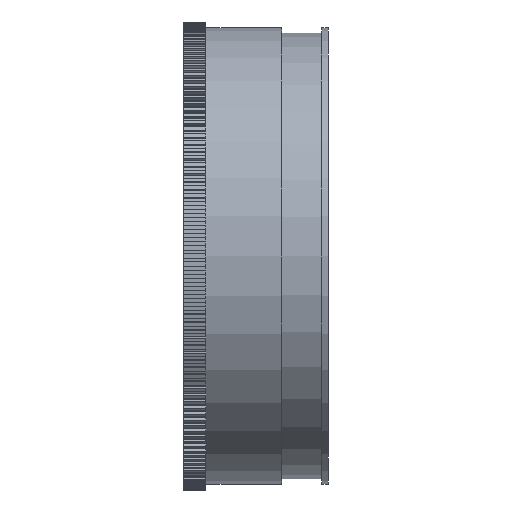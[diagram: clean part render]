
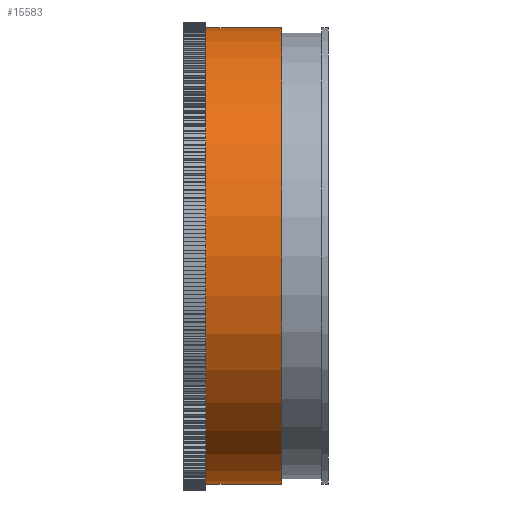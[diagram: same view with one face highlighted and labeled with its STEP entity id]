
A CAD part, front view. The second image highlights one B-rep face of the part: STEP entity #15583.
In plain terms, the highlighted cylindrical face has radius 102.5 mm (diameter 205 mm), a full revolution.
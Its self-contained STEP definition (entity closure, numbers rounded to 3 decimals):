
#100=FACE_BOUND($,#2402,.T.);
#500=CIRCLE($,#16691,102.5);
#558=CIRCLE($,#16796,102.5);
#774=CYLINDRICAL_SURFACE($,#16797,102.5);
#1546=FACE_OUTER_BOUND($,#2401,.T.);
#2401=EDGE_LOOP($,(#14233));
#2402=EDGE_LOOP($,(#14234));
#7486=VERTEX_POINT($,#25390);
#7544=VERTEX_POINT($,#25553);
#9724=EDGE_CURVE($,#7486,#7486,#500,.T.);
#9782=EDGE_CURVE($,#7544,#7544,#558,.T.);
#14233=ORIENTED_EDGE($,*,*,#9782,.F.);
#14234=ORIENTED_EDGE($,*,*,#9724,.T.);
#15583=ADVANCED_FACE($,(#1546,#100),#774,.T.);
#16691=AXIS2_PLACEMENT_3D($,#25391,#20805,#20806);
#16796=AXIS2_PLACEMENT_3D($,#25554,#21015,#21016);
#16797=AXIS2_PLACEMENT_3D($,#25555,#21017,#21018);
#20805=DIRECTION('center_axis',(1.,0.,0.));
#20806=DIRECTION('ref_axis',(0.,1.,0.));
#21015=DIRECTION('center_axis',(1.,0.,0.));
#21016=DIRECTION('ref_axis',(0.,1.,0.));
#21017=DIRECTION('center_axis',(1.,0.,0.));
#21018=DIRECTION('ref_axis',(0.,1.,0.));
#25390=CARTESIAN_POINT('',(-22.5,102.5,0.));
#25391=CARTESIAN_POINT('Origin',(-22.5,0.,0.));
#25553=CARTESIAN_POINT('',(11.5,102.5,0.));
#25554=CARTESIAN_POINT('Origin',(11.5,0.,0.));
#25555=CARTESIAN_POINT('Origin',(-5.5,0.,0.));
